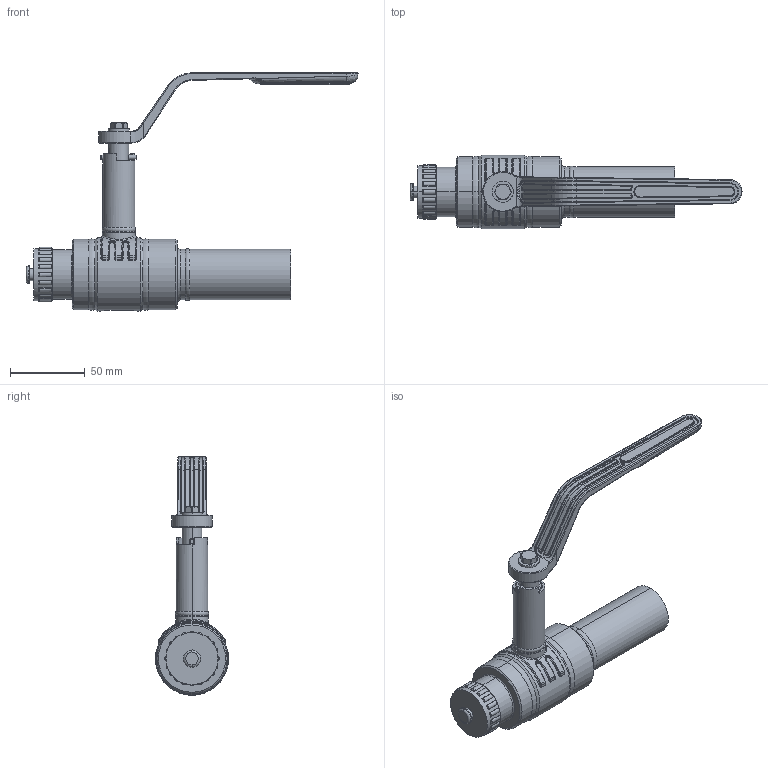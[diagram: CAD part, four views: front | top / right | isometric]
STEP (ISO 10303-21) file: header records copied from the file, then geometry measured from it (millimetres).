
FILE_DESCRIPTION((''),'2;1');
FILE_NAME('KHMO-SZ-R-H-025R020P0_SW0001','2022-10-18T15:12:27',('jeitlers'),('KLINGER'),'CREO PARAMETRIC BY PTC INC, 2020184','CREO PARAMETRIC BY PTC INC, 2020184','');
FILE_SCHEMA(('AUTOMOTIVE_DESIGN { 1 0 10303 214 1 1 1 1 }'));
Length unit declared in the file: millimetre
Products named in the file (1): KHMO-SZ-R-H-025R020P0_SW0001
Bounding box: 222.1 x 49 x 159.5 mm (x, y, z)
Volume: 171818.4 mm3; surface area: 69167 mm2
Topology: 1 solids, 1 shells, 758 faces, 1841 edges, 1094 vertices
Faces by surface type: cylinder 271, bspline 142, plane 135, torus 113, cone 84, sphere 8, extrusion 5
Entity records: 42822 total; most frequent: CARTESIAN_POINT 25192, ORIENTED_EDGE 3678, DIRECTION 3419, EDGE_CURVE 1839, AXIS2_PLACEMENT_3D 1435, VERTEX_POINT 1094, CIRCLE 811, EDGE_LOOP 791
